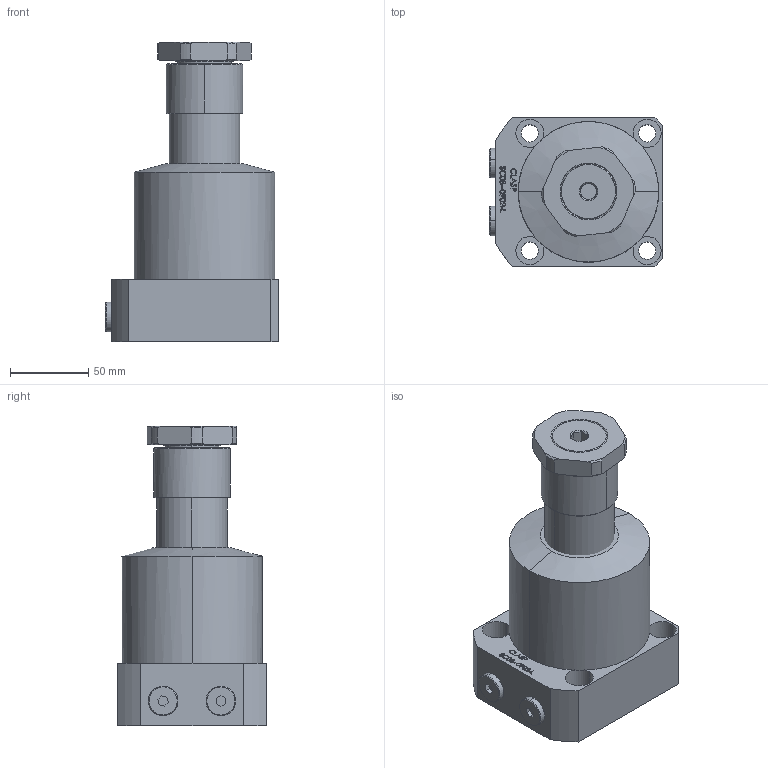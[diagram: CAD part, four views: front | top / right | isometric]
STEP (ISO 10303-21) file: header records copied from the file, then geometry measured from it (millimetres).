
FILE_DESCRIPTION (( 'STEP AP203' ), '1' );
FILE_NAME ('SC08-0902-L.STEP', '2022-07-08T17:22:35', ( '' ), ( '' ), 'SwSTEP 2.0', 'SolidWorks 2017', '' );
FILE_SCHEMA (( 'CONFIG_CONTROL_DESIGN' ));
Length unit declared in the file: millimetre
Products named in the file (6): SC-08-0902-L- BODY; SC08-0902-L-Piston; SC08-0902-L-05 plug; SC08-0902-03-nut; SC08-0902-04 sleeve; SC08-0902-L
Assembly tree (6 placements, depth 2):
  SC08-0902-L
    SC-08-0902-L- BODY
    SC08-0902-L-Piston
    SC08-0902-L-05 plug  x2
    SC08-0902-04 sleeve
    SC08-0902-03-nut
Bounding box: 111 x 95 x 192 mm (x, y, z)
Volume: 994801 mm3; surface area: 98299.6 mm2
Topology: 6 solids, 6 shells, 378 faces, 943 edges, 615 vertices
Faces by surface type: plane 158, bspline 113, cylinder 64, cone 41, sphere 2
Entity records: 18250 total; most frequent: CARTESIAN_POINT 9585, ORIENTED_EDGE 1818, DIRECTION 1336, EDGE_CURVE 909, VERTEX_POINT 594, LINE 454, VECTOR 454, AXIS2_PLACEMENT_3D 441
